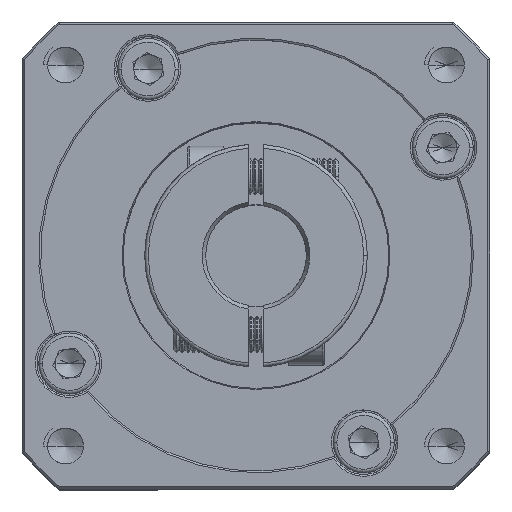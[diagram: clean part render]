
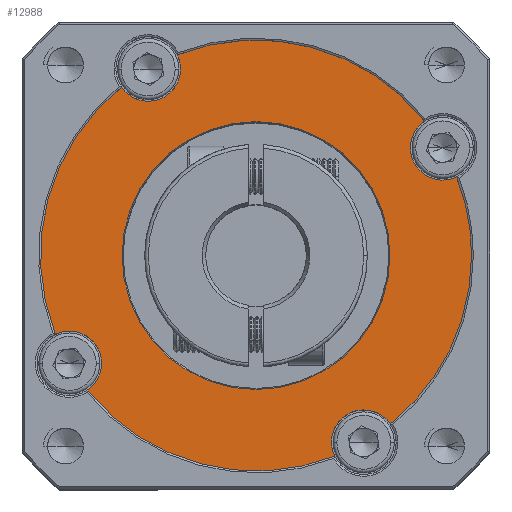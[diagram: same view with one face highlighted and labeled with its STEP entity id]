
A CAD part, top view. The second image highlights one B-rep face of the part: STEP entity #12988.
In plain terms, the highlighted planar face has unit normal (0, 0, 1).
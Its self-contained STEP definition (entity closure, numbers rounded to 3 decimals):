
#2372 = AXIS2_PLACEMENT_3D ( 'NONE', #125839, #67364, #77189 ) ;
#2484 = DIRECTION ( 'NONE',  ( 1., 0., 0. ) ) ;
#3351 = DIRECTION ( 'NONE',  ( 0., 0., -1. ) ) ;
#3960 = DIRECTION ( 'NONE',  ( 1., 0., 0. ) ) ;
#4431 = CARTESIAN_POINT ( 'NONE',  ( -37.248, 33.354, 1.199 ) ) ;
#6642 = ORIENTED_EDGE ( 'NONE', *, *, #75147, .F. ) ;
#7379 = CARTESIAN_POINT ( 'NONE',  ( -11.267, 48.354, 1.199 ) ) ;
#8419 = CIRCLE ( 'NONE', #50133, 4.5 ) ;
#8619 = VERTEX_POINT ( 'NONE', #49801 ) ;
#9135 = CARTESIAN_POINT ( 'NONE',  ( -65.18, 22.409, 1.199 ) ) ;
#11302 = VERTEX_POINT ( 'NONE', #39662 ) ;
#11349 = DIRECTION ( 'NONE',  ( 1., 0., 0. ) ) ;
#11385 = AXIS2_PLACEMENT_3D ( 'NONE', #41668, #62413, #101727 ) ;
#11410 = CARTESIAN_POINT ( 'NONE',  ( -7.248, 33.354, 1.199 ) ) ;
#11502 = DIRECTION ( 'NONE',  ( 0., 0., 1. ) ) ;
#12286 = CARTESIAN_POINT ( 'NONE',  ( -60.693, 14.637, 1.199 ) ) ;
#12837 = DIRECTION ( 'NONE',  ( 1., 0., 0. ) ) ;
#12988 = ADVANCED_FACE ( 'NONE', ( #87689, #32827 ), #69647, .T. ) ;
#14213 = DIRECTION ( 'NONE',  ( 0., 0., -1. ) ) ;
#15211 = ORIENTED_EDGE ( 'NONE', *, *, #60206, .T. ) ;
#16396 = ORIENTED_EDGE ( 'NONE', *, *, #84985, .F. ) ;
#18136 = DIRECTION ( 'NONE',  ( 0., 0., 1. ) ) ;
#22113 = DIRECTION ( 'NONE',  ( 0., 0., 1. ) ) ;
#23368 = AXIS2_PLACEMENT_3D ( 'NONE', #61630, #3351, #71445 ) ;
#23637 = DIRECTION ( 'NONE',  ( 1., 0., 0. ) ) ;
#24463 = VERTEX_POINT ( 'NONE', #119468 ) ;
#29150 = ORIENTED_EDGE ( 'NONE', *, *, #105099, .T. ) ;
#29173 = AXIS2_PLACEMENT_3D ( 'NONE', #103844, #55179, #123420 ) ;
#30428 = CARTESIAN_POINT ( 'NONE',  ( -48.193, 61.286, 1.199 ) ) ;
#31897 = CARTESIAN_POINT ( 'NONE',  ( -22.248, 7.373, 1.199 ) ) ;
#32827 = FACE_OUTER_BOUND ( 'NONE', #78803, .T. ) ;
#33333 = AXIS2_PLACEMENT_3D ( 'NONE', #121141, #52510, #3960 ) ;
#33876 = CARTESIAN_POINT ( 'NONE',  ( -37.248, 33.354, 1.199 ) ) ;
#35106 = EDGE_CURVE ( 'NONE', #88412, #100444, #74386, .T. ) ;
#35590 = VERTEX_POINT ( 'NONE', #108745 ) ;
#35916 = DIRECTION ( 'NONE',  ( 0., 0., 1. ) ) ;
#35927 = AXIS2_PLACEMENT_3D ( 'NONE', #31897, #22113, #2484 ) ;
#36510 = DIRECTION ( 'NONE',  ( 1., 0., 0. ) ) ;
#37998 = ORIENTED_EDGE ( 'NONE', *, *, #107492, .F. ) ;
#38694 = AXIS2_PLACEMENT_3D ( 'NONE', #4431, #14213, #82322 ) ;
#38797 = CIRCLE ( 'NONE', #11385, 4.5 ) ;
#39024 = VERTEX_POINT ( 'NONE', #9135 ) ;
#39662 = CARTESIAN_POINT ( 'NONE',  ( -55.892, 33.354, 1.199 ) ) ;
#40081 = CARTESIAN_POINT ( 'NONE',  ( -63.229, 18.354, 1.199 ) ) ;
#41322 = CARTESIAN_POINT ( 'NONE',  ( -22.248, 7.373, 1.199 ) ) ;
#41668 = CARTESIAN_POINT ( 'NONE',  ( -52.248, 59.335, 1.199 ) ) ;
#42884 = CIRCLE ( 'NONE', #35927, 4.5 ) ;
#44105 = EDGE_LOOP ( 'NONE', ( #29150, #74586 ) ) ;
#47186 = CARTESIAN_POINT ( 'NONE',  ( -9.316, 44.299, 1.199 ) ) ;
#47498 = CARTESIAN_POINT ( 'NONE',  ( -26.748, 7.373, 1.199 ) ) ;
#49193 = ORIENTED_EDGE ( 'NONE', *, *, #90538, .T. ) ;
#49665 = CARTESIAN_POINT ( 'NONE',  ( -58.729, 18.354, 1.199 ) ) ;
#49801 = CARTESIAN_POINT ( 'NONE',  ( -18.604, 33.354, 1.199 ) ) ;
#50133 = AXIS2_PLACEMENT_3D ( 'NONE', #40081, #11502, #118909 ) ;
#50783 = ORIENTED_EDGE ( 'NONE', *, *, #35106, .T. ) ;
#51517 = DIRECTION ( 'NONE',  ( 1., 0., 0. ) ) ;
#52328 = ORIENTED_EDGE ( 'NONE', *, *, #82388, .F. ) ;
#52510 = DIRECTION ( 'NONE',  ( 0., 0., 1. ) ) ;
#52583 = DIRECTION ( 'NONE',  ( 0., 0., 1. ) ) ;
#53361 = EDGE_CURVE ( 'NONE', #119761, #125523, #57718, .T. ) ;
#53741 = EDGE_CURVE ( 'NONE', #101783, #88412, #67495, .T. ) ;
#54227 = DIRECTION ( 'NONE',  ( 1., 0., 0. ) ) ;
#55179 = DIRECTION ( 'NONE',  ( 0., 0., 1. ) ) ;
#56028 = CARTESIAN_POINT ( 'NONE',  ( -63.229, 18.354, 1.199 ) ) ;
#57718 = CIRCLE ( 'NONE', #2372, 30. ) ;
#60059 = CARTESIAN_POINT ( 'NONE',  ( -15.767, 48.354, 1.199 ) ) ;
#60206 = EDGE_CURVE ( 'NONE', #35590, #39024, #78171, .T. ) ;
#60226 = CARTESIAN_POINT ( 'NONE',  ( -11.267, 48.354, 1.199 ) ) ;
#60823 = AXIS2_PLACEMENT_3D ( 'NONE', #41322, #100138, #51517 ) ;
#61588 = CIRCLE ( 'NONE', #60823, 4.5 ) ;
#61630 = CARTESIAN_POINT ( 'NONE',  ( -37.248, 33.354, 1.199 ) ) ;
#61908 = VERTEX_POINT ( 'NONE', #60059 ) ;
#62413 = DIRECTION ( 'NONE',  ( 0., 0., 1. ) ) ;
#63936 = VERTEX_POINT ( 'NONE', #66306 ) ;
#63990 = AXIS2_PLACEMENT_3D ( 'NONE', #123761, #93144, #73855 ) ;
#64649 = VERTEX_POINT ( 'NONE', #47498 ) ;
#64708 = CARTESIAN_POINT ( 'NONE',  ( -18.531, 9.909, 1.199 ) ) ;
#66306 = CARTESIAN_POINT ( 'NONE',  ( -47.748, 59.335, 1.199 ) ) ;
#66902 = ORIENTED_EDGE ( 'NONE', *, *, #123568, .F. ) ;
#67364 = DIRECTION ( 'NONE',  ( 0., 0., 1. ) ) ;
#67495 = CIRCLE ( 'NONE', #33333, 30. ) ;
#69282 = AXIS2_PLACEMENT_3D ( 'NONE', #33876, #52583, #23637 ) ;
#69647 = PLANE ( 'NONE',  #102700 ) ;
#70461 = DIRECTION ( 'NONE',  ( 0., 0., 1. ) ) ;
#71445 = DIRECTION ( 'NONE',  ( 1., 0., 0. ) ) ;
#71521 = VERTEX_POINT ( 'NONE', #30428 ) ;
#71992 = CARTESIAN_POINT ( 'NONE',  ( -52.248, 59.335, 1.199 ) ) ;
#72071 = CARTESIAN_POINT ( 'NONE',  ( -26.303, 5.422, 1.199 ) ) ;
#73591 = CIRCLE ( 'NONE', #117660, 4.5 ) ;
#73855 = DIRECTION ( 'NONE',  ( 1., 0., 0. ) ) ;
#74386 = CIRCLE ( 'NONE', #69282, 30. ) ;
#74403 = EDGE_CURVE ( 'NONE', #64649, #125523, #42884, .T. ) ;
#74586 = ORIENTED_EDGE ( 'NONE', *, *, #77594, .T. ) ;
#75147 = EDGE_CURVE ( 'NONE', #61908, #100444, #79225, .T. ) ;
#77189 = DIRECTION ( 'NONE',  ( 1., 0., 0. ) ) ;
#77594 = EDGE_CURVE ( 'NONE', #11302, #8619, #79983, .T. ) ;
#78052 = AXIS2_PLACEMENT_3D ( 'NONE', #60226, #70461, #98707 ) ;
#78171 = CIRCLE ( 'NONE', #29173, 30. ) ;
#78803 = EDGE_LOOP ( 'NONE', ( #66902, #79063, #118335, #104805, #113070, #50783, #6642, #16396, #49193, #37998, #105102, #15211, #52328 ) ) ;
#79063 = ORIENTED_EDGE ( 'NONE', *, *, #53361, .T. ) ;
#79225 = CIRCLE ( 'NONE', #98120, 4.5 ) ;
#79983 = CIRCLE ( 'NONE', #38694, 18.644 ) ;
#80761 = DIRECTION ( 'NONE',  ( 0., 0., 1. ) ) ;
#82322 = DIRECTION ( 'NONE',  ( 1., 0., 0. ) ) ;
#82388 = EDGE_CURVE ( 'NONE', #91577, #39024, #95687, .T. ) ;
#84985 = EDGE_CURVE ( 'NONE', #24463, #61908, #125656, .T. ) ;
#87689 = FACE_BOUND ( 'NONE', #44105, .T. ) ;
#87862 = EDGE_CURVE ( 'NONE', #35590, #63936, #73591, .T. ) ;
#88412 = VERTEX_POINT ( 'NONE', #11410 ) ;
#90538 = EDGE_CURVE ( 'NONE', #24463, #71521, #94087, .T. ) ;
#91084 = EDGE_CURVE ( 'NONE', #101783, #64649, #61588, .T. ) ;
#91577 = VERTEX_POINT ( 'NONE', #49665 ) ;
#93144 = DIRECTION ( 'NONE',  ( 0., 0., 1. ) ) ;
#94087 = CIRCLE ( 'NONE', #63990, 30. ) ;
#95687 = CIRCLE ( 'NONE', #97326, 4.5 ) ;
#97326 = AXIS2_PLACEMENT_3D ( 'NONE', #56028, #18136, #36510 ) ;
#98120 = AXIS2_PLACEMENT_3D ( 'NONE', #7379, #35916, #54227 ) ;
#98707 = DIRECTION ( 'NONE',  ( 1., 0., 0. ) ) ;
#100138 = DIRECTION ( 'NONE',  ( 0., 0., 1. ) ) ;
#100444 = VERTEX_POINT ( 'NONE', #47186 ) ;
#101727 = DIRECTION ( 'NONE',  ( 1., 0., 0. ) ) ;
#101783 = VERTEX_POINT ( 'NONE', #64708 ) ;
#102700 = AXIS2_PLACEMENT_3D ( 'NONE', #110216, #80761, #11349 ) ;
#103844 = CARTESIAN_POINT ( 'NONE',  ( -37.248, 33.354, 1.199 ) ) ;
#104805 = ORIENTED_EDGE ( 'NONE', *, *, #91084, .F. ) ;
#105099 = EDGE_CURVE ( 'NONE', #8619, #11302, #122203, .T. ) ;
#105102 = ORIENTED_EDGE ( 'NONE', *, *, #87862, .F. ) ;
#107492 = EDGE_CURVE ( 'NONE', #63936, #71521, #38797, .T. ) ;
#108745 = CARTESIAN_POINT ( 'NONE',  ( -55.965, 56.799, 1.199 ) ) ;
#110216 = CARTESIAN_POINT ( 'NONE',  ( -37.248, 33.354, 1.199 ) ) ;
#113070 = ORIENTED_EDGE ( 'NONE', *, *, #53741, .T. ) ;
#117660 = AXIS2_PLACEMENT_3D ( 'NONE', #71992, #119795, #12837 ) ;
#118335 = ORIENTED_EDGE ( 'NONE', *, *, #74403, .F. ) ;
#118909 = DIRECTION ( 'NONE',  ( 1., 0., 0. ) ) ;
#119468 = CARTESIAN_POINT ( 'NONE',  ( -13.803, 52.071, 1.199 ) ) ;
#119761 = VERTEX_POINT ( 'NONE', #12286 ) ;
#119795 = DIRECTION ( 'NONE',  ( 0., 0., 1. ) ) ;
#121141 = CARTESIAN_POINT ( 'NONE',  ( -37.248, 33.354, 1.199 ) ) ;
#122203 = CIRCLE ( 'NONE', #23368, 18.644 ) ;
#123420 = DIRECTION ( 'NONE',  ( 1., 0., 0. ) ) ;
#123568 = EDGE_CURVE ( 'NONE', #119761, #91577, #8419, .T. ) ;
#123761 = CARTESIAN_POINT ( 'NONE',  ( -37.248, 33.354, 1.199 ) ) ;
#125523 = VERTEX_POINT ( 'NONE', #72071 ) ;
#125656 = CIRCLE ( 'NONE', #78052, 4.5 ) ;
#125839 = CARTESIAN_POINT ( 'NONE',  ( -37.248, 33.354, 1.199 ) ) ;
